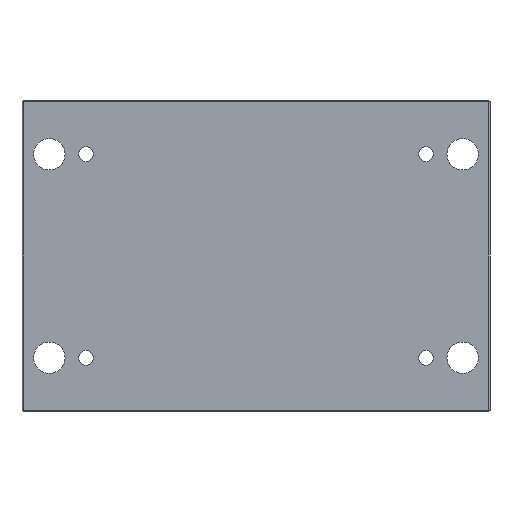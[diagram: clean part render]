
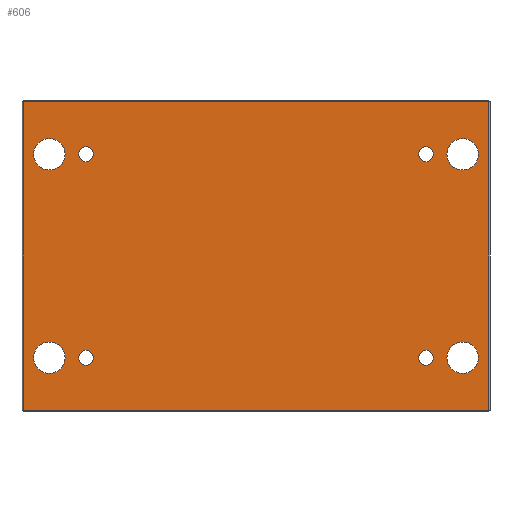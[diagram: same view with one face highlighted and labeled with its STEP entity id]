
A CAD part, front view. The second image highlights one B-rep face of the part: STEP entity #606.
In plain terms, the highlighted planar face has unit normal (0, -1, 0).
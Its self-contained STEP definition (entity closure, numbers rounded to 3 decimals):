
#42=CIRCLE('',#665,7.);
#43=CIRCLE('',#666,7.);
#44=CIRCLE('',#667,7.);
#45=CIRCLE('',#668,7.);
#46=CIRCLE('',#669,15.);
#47=CIRCLE('',#670,15.);
#48=CIRCLE('',#671,15.);
#49=CIRCLE('',#672,15.);
#112=ORIENTED_EDGE('',*,*,#252,.F.);
#113=ORIENTED_EDGE('',*,*,#253,.F.);
#114=ORIENTED_EDGE('',*,*,#254,.F.);
#115=ORIENTED_EDGE('',*,*,#255,.F.);
#116=ORIENTED_EDGE('',*,*,#256,.F.);
#117=ORIENTED_EDGE('',*,*,#257,.F.);
#118=ORIENTED_EDGE('',*,*,#258,.F.);
#119=ORIENTED_EDGE('',*,*,#259,.F.);
#120=ORIENTED_EDGE('',*,*,#260,.F.);
#121=ORIENTED_EDGE('',*,*,#246,.F.);
#122=ORIENTED_EDGE('',*,*,#261,.T.);
#123=ORIENTED_EDGE('',*,*,#248,.T.);
#246=EDGE_CURVE('',#313,#310,#369,.T.);
#248=EDGE_CURVE('',#315,#314,#371,.T.);
#252=EDGE_CURVE('',#318,#318,#42,.T.);
#253=EDGE_CURVE('',#319,#319,#43,.T.);
#254=EDGE_CURVE('',#320,#320,#44,.T.);
#255=EDGE_CURVE('',#321,#321,#45,.T.);
#256=EDGE_CURVE('',#322,#322,#46,.T.);
#257=EDGE_CURVE('',#323,#323,#47,.T.);
#258=EDGE_CURVE('',#324,#324,#48,.T.);
#259=EDGE_CURVE('',#325,#325,#49,.T.);
#260=EDGE_CURVE('',#310,#314,#375,.T.);
#261=EDGE_CURVE('',#313,#315,#376,.T.);
#310=VERTEX_POINT('',#956);
#313=VERTEX_POINT('',#962);
#314=VERTEX_POINT('',#966);
#315=VERTEX_POINT('',#968);
#318=VERTEX_POINT('',#976);
#319=VERTEX_POINT('',#978);
#320=VERTEX_POINT('',#980);
#321=VERTEX_POINT('',#982);
#322=VERTEX_POINT('',#984);
#323=VERTEX_POINT('',#986);
#324=VERTEX_POINT('',#988);
#325=VERTEX_POINT('',#990);
#369=LINE('',#963,#417);
#371=LINE('',#967,#419);
#375=LINE('',#991,#423);
#376=LINE('',#992,#424);
#417=VECTOR('',#773,1000.);
#419=VECTOR('',#777,1000.);
#423=VECTOR('',#799,1000.);
#424=VECTOR('',#800,1000.);
#452=EDGE_LOOP('',(#112));
#453=EDGE_LOOP('',(#113));
#454=EDGE_LOOP('',(#114));
#455=EDGE_LOOP('',(#115));
#456=EDGE_LOOP('',(#116));
#457=EDGE_LOOP('',(#117));
#458=EDGE_LOOP('',(#118));
#459=EDGE_LOOP('',(#119));
#460=EDGE_LOOP('',(#120,#121,#122,#123));
#522=FACE_BOUND('',#452,.T.);
#523=FACE_BOUND('',#453,.T.);
#524=FACE_BOUND('',#454,.T.);
#525=FACE_BOUND('',#455,.T.);
#526=FACE_BOUND('',#456,.T.);
#527=FACE_BOUND('',#457,.T.);
#528=FACE_BOUND('',#458,.T.);
#529=FACE_BOUND('',#459,.T.);
#530=FACE_BOUND('',#460,.T.);
#583=PLANE('',#664);
#606=ADVANCED_FACE('',(#522,#523,#524,#525,#526,#527,#528,#529,#530),#583,
 .F.);
#664=AXIS2_PLACEMENT_3D('',#974,#781,#782);
#665=AXIS2_PLACEMENT_3D('',#975,#783,#784);
#666=AXIS2_PLACEMENT_3D('',#977,#785,#786);
#667=AXIS2_PLACEMENT_3D('',#979,#787,#788);
#668=AXIS2_PLACEMENT_3D('',#981,#789,#790);
#669=AXIS2_PLACEMENT_3D('',#983,#791,#792);
#670=AXIS2_PLACEMENT_3D('',#985,#793,#794);
#671=AXIS2_PLACEMENT_3D('',#987,#795,#796);
#672=AXIS2_PLACEMENT_3D('',#989,#797,#798);
#773=DIRECTION('',(0.,0.,-1.));
#777=DIRECTION('',(0.,0.,-1.));
#781=DIRECTION('',(0.,1.,0.));
#782=DIRECTION('',(0.,0.,1.));
#783=DIRECTION('',(0.,-1.,0.));
#784=DIRECTION('',(0.,0.,-1.));
#785=DIRECTION('',(0.,-1.,0.));
#786=DIRECTION('',(0.,0.,-1.));
#787=DIRECTION('',(0.,-1.,0.));
#788=DIRECTION('',(0.,0.,-1.));
#789=DIRECTION('',(0.,-1.,0.));
#790=DIRECTION('',(0.,0.,-1.));
#791=DIRECTION('',(0.,-1.,0.));
#792=DIRECTION('',(0.,0.,-1.));
#793=DIRECTION('',(0.,-1.,0.));
#794=DIRECTION('',(0.,0.,-1.));
#795=DIRECTION('',(0.,-1.,0.));
#796=DIRECTION('',(0.,0.,-1.));
#797=DIRECTION('',(0.,-1.,0.));
#798=DIRECTION('',(0.,0.,-1.));
#799=DIRECTION('',(-1.,0.,0.));
#800=DIRECTION('',(-1.,0.,0.));
#956=CARTESIAN_POINT('',(222.,0.,-147.));
#962=CARTESIAN_POINT('',(222.,0.,147.));
#963=CARTESIAN_POINT('',(222.,0.,148.));
#966=CARTESIAN_POINT('',(-222.,0.,-147.));
#967=CARTESIAN_POINT('',(-222.,0.,148.));
#968=CARTESIAN_POINT('',(-222.,0.,147.));
#974=CARTESIAN_POINT('',(-222.,0.,148.));
#975=CARTESIAN_POINT('',(162.,0.,97.));
#976=CARTESIAN_POINT('',(162.,0.,90.));
#977=CARTESIAN_POINT('',(-162.,0.,97.));
#978=CARTESIAN_POINT('',(-162.,0.,90.));
#979=CARTESIAN_POINT('',(162.,0.,-97.));
#980=CARTESIAN_POINT('',(162.,0.,-104.));
#981=CARTESIAN_POINT('',(-162.,0.,-97.));
#982=CARTESIAN_POINT('',(-162.,0.,-104.));
#983=CARTESIAN_POINT('',(197.,0.,97.));
#984=CARTESIAN_POINT('',(197.,0.,82.));
#985=CARTESIAN_POINT('',(-197.,0.,97.));
#986=CARTESIAN_POINT('',(-197.,0.,82.));
#987=CARTESIAN_POINT('',(197.,0.,-97.));
#988=CARTESIAN_POINT('',(197.,0.,-112.));
#989=CARTESIAN_POINT('',(-197.,0.,-97.));
#990=CARTESIAN_POINT('',(-197.,0.,-112.));
#991=CARTESIAN_POINT('',(223.,0.,-147.));
#992=CARTESIAN_POINT('',(223.,0.,147.));
